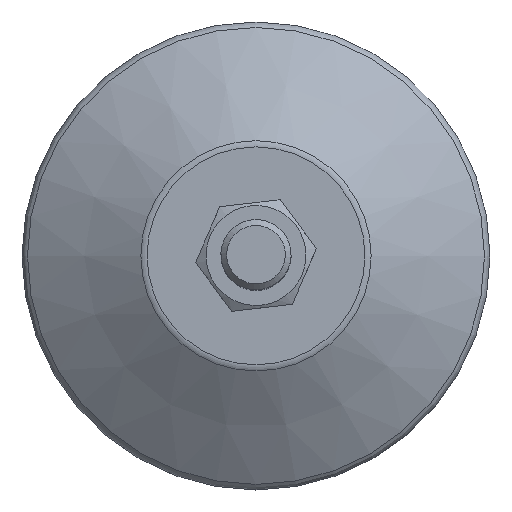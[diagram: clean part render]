
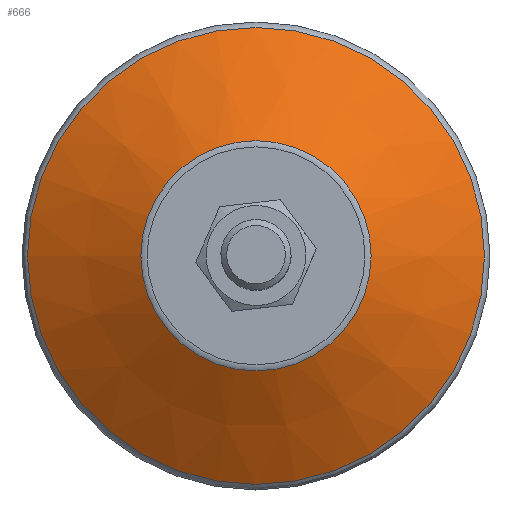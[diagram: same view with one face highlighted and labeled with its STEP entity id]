
A CAD part, top view. The second image highlights one B-rep face of the part: STEP entity #666.
In plain terms, the highlighted conical face has half-angle 58 degrees and reference radius 29.371 mm.
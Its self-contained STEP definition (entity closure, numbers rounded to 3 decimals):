
#666=ADVANCED_FACE('',(#2333,#2335),#2337,.T.);
#2333=FACE_BOUND('',#2334,.T.);
#2334=EDGE_LOOP('',(#3579,#3580));
#2335=FACE_BOUND('',#2336,.T.);
#2336=EDGE_LOOP('',(#3581,#3582));
#2337=CONICAL_SURFACE('',#2338,29.371,1.012);
#2338=AXIS2_PLACEMENT_3D('',#2339,#2340,#2341);
#2339=CARTESIAN_POINT('',(0.,0.,11.642));
#2340=DIRECTION('',(0.,0.,-1.));
#2341=DIRECTION('',(1.,0.,0.));
#3579=ORIENTED_EDGE('',*,*,#4371,.T.);
#3580=ORIENTED_EDGE('',*,*,#4372,.T.);
#3581=ORIENTED_EDGE('',*,*,#4370,.F.);
#3582=ORIENTED_EDGE('',*,*,#4369,.F.);
#4369=EDGE_CURVE('',#4875,#4876,#4877,.T.);
#4370=EDGE_CURVE('',#4876,#4875,#4878,.T.);
#4371=EDGE_CURVE('',#4879,#4880,#4881,.T.);
#4372=EDGE_CURVE('',#4880,#4879,#4882,.T.);
#4875=VERTEX_POINT('',#6695);
#4876=VERTEX_POINT('',#6696);
#4877=CIRCLE('',#6697,19.682);
#4878=CIRCLE('',#6701,19.682);
#4879=VERTEX_POINT('',#6705);
#4880=VERTEX_POINT('',#6706);
#4881=CIRCLE('',#6707,39.06);
#4882=CIRCLE('',#6711,39.06);
#6695=CARTESIAN_POINT('',(19.682,0.,17.696));
#6696=CARTESIAN_POINT('',(-19.682,0.,17.696));
#6697=AXIS2_PLACEMENT_3D('',#6698,#6699,#6700);
#6698=CARTESIAN_POINT('',(0.,0.,17.696));
#6699=DIRECTION('',(0.,0.,1.));
#6700=DIRECTION('',(1.,0.,0.));
#6701=AXIS2_PLACEMENT_3D('',#6702,#6703,#6704);
#6702=CARTESIAN_POINT('',(0.,0.,17.696));
#6703=DIRECTION('',(0.,0.,1.));
#6704=DIRECTION('',(-1.,0.,0.));
#6705=CARTESIAN_POINT('',(39.06,0.,5.587));
#6706=CARTESIAN_POINT('',(-39.06,0.,5.587));
#6707=AXIS2_PLACEMENT_3D('',#6708,#6709,#6710);
#6708=CARTESIAN_POINT('',(0.,0.,5.587));
#6709=DIRECTION('',(0.,0.,1.));
#6710=DIRECTION('',(1.,0.,0.));
#6711=AXIS2_PLACEMENT_3D('',#6712,#6713,#6714);
#6712=CARTESIAN_POINT('',(0.,0.,5.587));
#6713=DIRECTION('',(0.,0.,1.));
#6714=DIRECTION('',(-1.,0.,0.));
